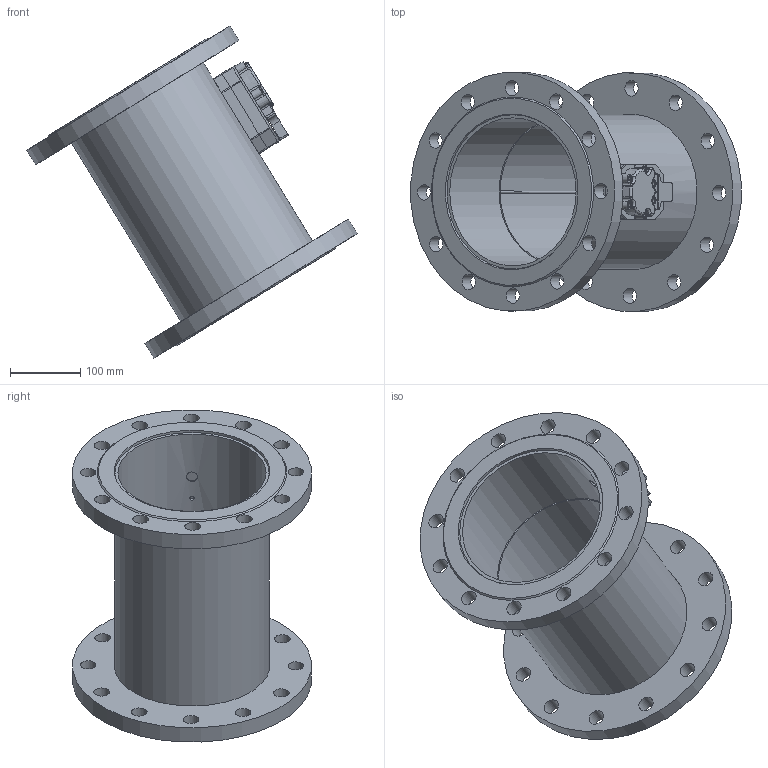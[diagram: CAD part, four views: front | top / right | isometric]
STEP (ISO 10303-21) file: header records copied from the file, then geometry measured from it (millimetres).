
FILE_DESCRIPTION( ( 'Unknown' ), '1' );
FILE_NAME( 'H:/440 pour vente_mai_2013/step_2/DN200_PN10-16_inox_350mm_rempli.stp', 'Unknown', ( 'Unknown' ), ( 'Unknown' ), 'PSStep 15.0.49', 'Unknown', ' ' );
FILE_SCHEMA( ( 'AUTOMOTIVE_DESIGN { 1 0 10303 214 1 1 1 1 }' ) );
Length unit declared in the file: millimetre
Products named in the file (9): 440_tête_rempli; 0440P011_rempli; 0440P012_rempli; 0440P060_rempli; Assem1; 0440P202_rempli; 0440P225_rempli; 0440P236_rempli; 0440P260_rempli
Assembly tree (10 placements, depth 3):
  Assem1
    0440P202_rempli
    0440P225_rempli  x2
    0440P236_rempli
    0440P260_rempli  x2
    440_tête_rempli
      0440P011_rempli
      0440P012_rempli
      0440P060_rempli
Bounding box: 469.67 x 338.97 x 472.01 mm (x, y, z)
Volume: 3998705.1 mm3; surface area: 879495.1 mm2
Topology: 9 solids, 14 shells, 284 faces, 733 edges, 464 vertices
Faces by surface type: cylinder 104, plane 79, cone 57, torus 29, bspline 15
Full cylindrical faces by diameter (mm): 2.2 x1, 2.459 x2, 2.5 x1, 3 x2, 3.242 x4, 4.1 x1, 5.03 x1, 6 x1, 6.2 x6, 6.917 x2, 10.2 x2, 16 x2, 20 x4, 22 x24, 210.5 x1, 219.1 x1, 221.5 x2, 340 x2
Entity records: 13734 total; most frequent: CARTESIAN_POINT 5540, DIRECTION 1305, ORIENTED_EDGE 1106, EDGE_CURVE 553, AXIS2_PLACEMENT_3D 550, VERTEX_POINT 385, EDGE_LOOP 378, FACE_OUTER_BOUND 305
